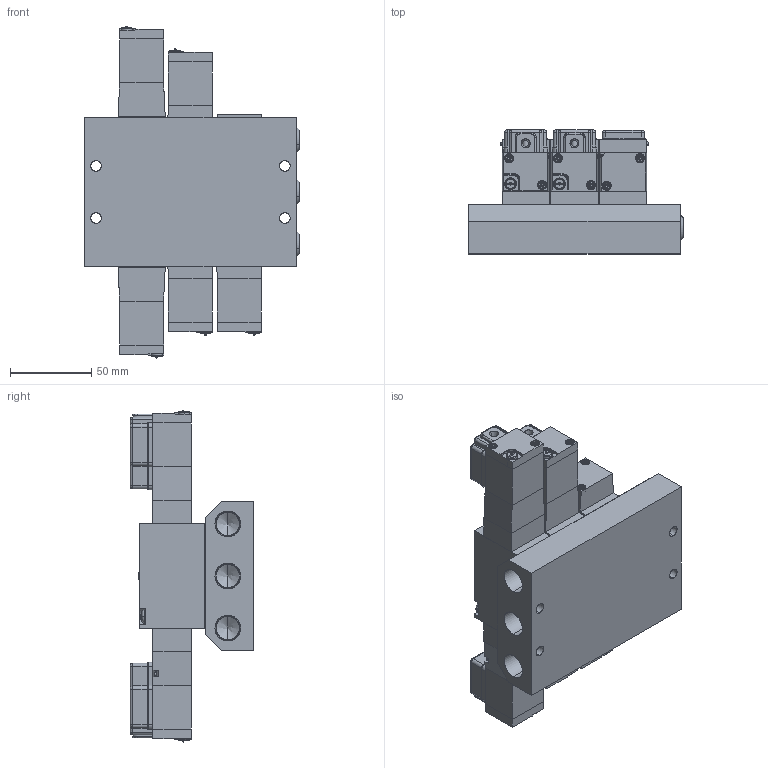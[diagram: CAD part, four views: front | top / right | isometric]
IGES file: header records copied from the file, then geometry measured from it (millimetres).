
Start section: SolidWorks IGES file using analytic representation for surfaces
Global section: file name: D:\Custom\3D繪製\PC\RC08\MFU#-RC08-G.IGS,1; native system: 5HSolidWorks 2014; preprocessor: SolidWorks 2014; author: Chieh_Lu; date: 150820.105231; units: millimetre
Bounding box: 131.89 x 76 x 203.95 mm (x, y, z)
Surface area: 191144.1 mm2 (no closed solid volume)
Topology: 0 solids, 0 shells, 2088 faces, 20614 edges, 20494 vertices
Faces by surface type: bspline 1242, revolution 846
